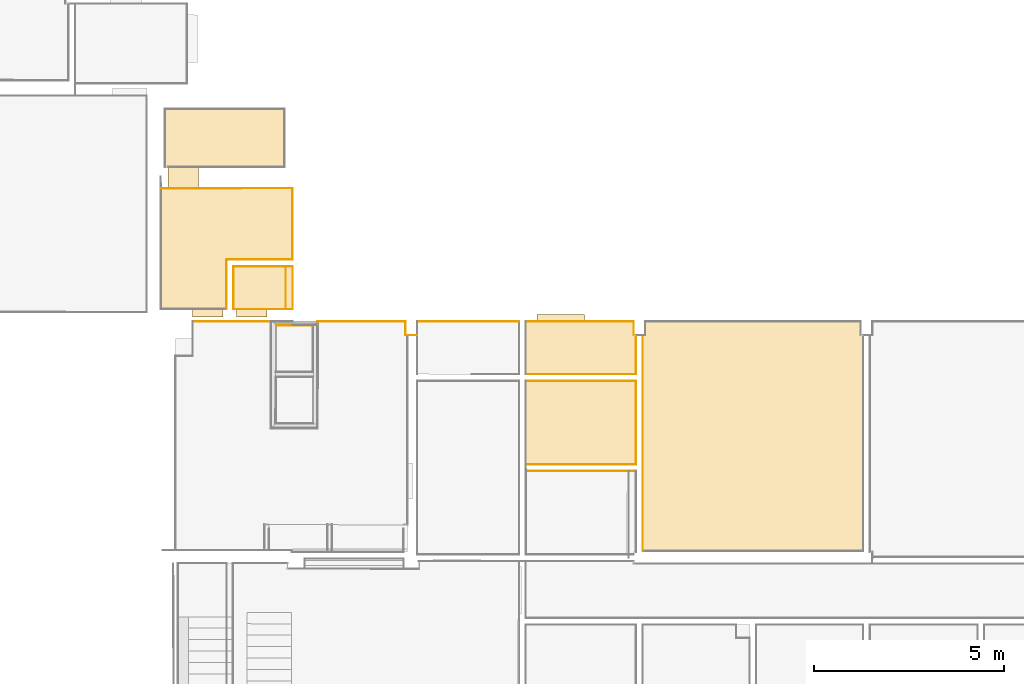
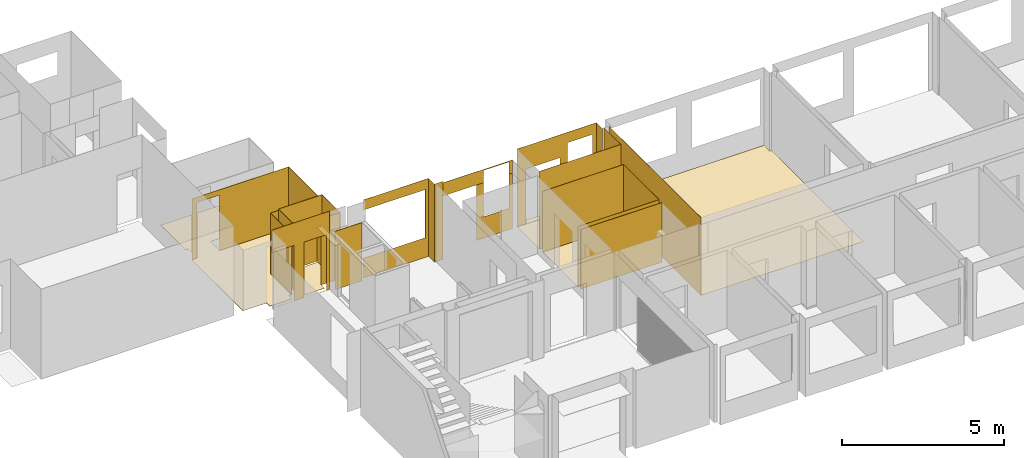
# One storey, part 10 of 33: 31 coverings, 11 openings.
"""IFC2X3 building model written with IfcOpenShell, lengths in millimetres."""

from ifc_helpers import new_model, entity, si_unit, converted_unit, derived_unit, money_unit, direction, frame, origin_with_axes, origin_2d_with_axis, place, context, subcontext, project, spatial, polyline, rectangle, outline, extrude, material, type_object, element, save


model = new_model("IFC2X3")

# Units and contexts
model_context = context("Model", 3, precision=0.01, world=origin_with_axes(), true_north=direction((0.0, 1.0)))
body_context = subcontext(model_context, "Body", "Model", "MODEL_VIEW")
ifc_project = project(units=[si_unit("LENGTHUNIT", "METRE", prefix="MILLI"), si_unit("AREAUNIT", "SQUARE_METRE"), si_unit("VOLUMEUNIT", "CUBIC_METRE"), converted_unit("PLANEANGLEUNIT", "DEGREE", entity("IfcPlaneAngleMeasure", 0.0174532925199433), si_unit("PLANEANGLEUNIT", "RADIAN"), dimensions=[0, 0, 0, 0, 0, 0, 0]), money_unit("EUR"), converted_unit("TIMEUNIT", "Year", entity("IfcTimeMeasure", 31556926.0), si_unit("TIMEUNIT", "SECOND"), dimensions=[0, 0, 1, 0, 0, 0, 0]), si_unit("MASSUNIT", "GRAM", prefix="KILO"), si_unit("THERMODYNAMICTEMPERATUREUNIT", "DEGREE_CELSIUS"), si_unit("LUMINOUSINTENSITYUNIT", "LUMEN"), si_unit("ENERGYUNIT", "JOULE", prefix="MEGA"), derived_unit("THERMALCONDUCTANCEUNIT", [(si_unit("POWERUNIT", "WATT"), 1), (si_unit("LENGTHUNIT", "METRE"), -1), (si_unit("THERMODYNAMICTEMPERATUREUNIT", "KELVIN"), -1)]), derived_unit("SPECIFICHEATCAPACITYUNIT", [(si_unit("ENERGYUNIT", "JOULE"), 1), (si_unit("MASSUNIT", "GRAM", prefix="KILO"), -1), (si_unit("THERMODYNAMICTEMPERATUREUNIT", "KELVIN"), -1)]), derived_unit("MASSDENSITYUNIT", [(si_unit("MASSUNIT", "GRAM", prefix="KILO"), 1), (si_unit("VOLUMEUNIT", "CUBIC_METRE"), -1)])], contexts=[model_context])

# Site, building, storey
site_placement = place(None, origin_with_axes())
site = spatial("IfcSite", under=ifc_project, at=site_placement, Name="Paldiski mnt 245/1, Tallinn, Harjumaa", CompositionType="COMPLEX")
building_placement = place(site_placement, origin_with_axes())
building = spatial("IfcBuilding", under=site, at=building_placement, Name="RKAS Hoone üldnimetus (kasutust iseloomustav) -> IFC Project Manager -> SOLIBRI", CompositionType="ELEMENT")
storey_placement = place(building_placement, origin_with_axes())
storey = spatial("IfcBuildingStorey", under=building, at=storey_placement, Name="Esimene korrus", CompositionType="ELEMENT", Elevation=0.0)

# Coverings
ifc_material_1 = material(Name="SA- PM-7 plaat 15x15")
covering_type_1 = type_object("IfcCoveringType", Name="SA- PM-7 plaat 15x15 8", PredefinedType="FLOORING")
covering_1_placement = place(storey_placement, frame((-46294.14747291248, 1509.828500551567, 0.0), z_axis=(0.0, 0.0, 1.0), x_axis=(1.0, 0.0, 0.0)))
element("IfcCovering", 1, at=covering_1_placement, inside=storey, type_object=covering_type_1, material=ifc_material_1, Name="PM-7", PredefinedType="FLOORING", context=body_context, shape_type="SweptSolid", body=[
    extrude(outline(polyline([(0.0, 0.0), (1734.449106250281, -1.137613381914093), (1735.688702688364, 1888.862055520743), (-745.846885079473, 1890.489566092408), (-745.4881458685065, 2437.489415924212), (1526.59701427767, 2437.000223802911), (1526.597014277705, 3983.171499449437), (-1638.852527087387, 3983.171499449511), (-1638.852527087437, 2437.000223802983), (-1545.852527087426, 2437.000223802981), (-1545.852527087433, 1889.125463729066), (-1745.852527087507, 1889.125463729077), (-1745.852136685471, -1298.684017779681), (-900.8523263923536, -1299.238181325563), (-900.9870213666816, -1504.660413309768), (-100.9871925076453, -1505.185092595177), (-100.8524975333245, -1299.762860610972), (-0.8525270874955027, -1299.828500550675), (0.0, 0.0)])), origin_with_axes(), (0.0, 0.0, 1.0), 8.0),
])
covering_2_placement = place(storey_placement, frame((-38424.335377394, -3871.024272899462, 0.0), z_axis=(0.0, 0.0, 1.0), x_axis=(1.0, 0.0, 0.0)))
element("IfcCovering", 2, at=covering_2_placement, inside=storey, type_object=covering_type_1, material=ifc_material_1, Name="PM-7", PredefinedType="FLOORING", context=body_context, shape_type="SweptSolid", body=[
    extrude(outline(polyline([(0.0, 0.0), (2904.999464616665, -1.905264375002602), (2906.442349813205, 2198.094262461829), (1.442893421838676, 2199.999526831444), (0.0, 0.0)])), origin_with_axes(), (0.0, 0.0, 1.0), 8.0),
])
covering_3_placement = place(storey_placement, frame((-38430.00009975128, -1504.999956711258, 0.0), z_axis=(0.0, 0.0, 1.0), x_axis=(1.0, 0.0, 0.0)))
element("IfcCovering", 3, at=covering_3_placement, inside=storey, type_object=covering_type_1, material=ifc_material_1, Name="PM-7", PredefinedType="FLOORING", context=body_context, shape_type="SweptSolid", body=[
    extrude(outline(polyline([(0.0, 0.0), (2905.000099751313, -4.328791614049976e-05), (2905.000099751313, 1034.999960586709), (2840.000090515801, 1034.999960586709), (2840.000090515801, 1394.999975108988), (1544.00009883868, 1394.999975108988), (1544.00009883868, 1574.99996072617), (294.0000977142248, 1574.99996072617), (294.0000977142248, 1394.999975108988), (0.0, 1394.999931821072), (0.0, 0.0)])), origin_with_axes(), (0.0, 0.0, 1.0), 8.0),
])
ifc_material_2 = material(Name="SA- Laminaat SM2(kollane laminaat)")
covering_type_2 = type_object("IfcCoveringType", Name="SA- Laminaat SM2(kollane laminaat) 12", PredefinedType="CLADDING")
covering_4_placement = place(storey_placement, frame((-44562.0667753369, 1338.80366358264, 50.0), z_axis=(0.0, 0.0, 1.0), x_axis=(-0.9999997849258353, 0.0006558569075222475, 0.0)))
element("IfcCovering", 4, at=covering_4_placement, inside=storey, type_object=covering_type_2, material=ifc_material_2, Name="SM2", PredefinedType="CLADDING", context=body_context, shape_type="SweptSolid", body=[
    extrude(outline(polyline([(0.0, 0.0), (1562.933560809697, 0.0), (1550.925687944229, 12.00000000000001), (4.976020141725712, 12.00000000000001), (0.0, 0.0)])), origin_with_axes(), (0.0, 0.0, 1.0), 2450.0),
])
covering_5_placement = place(storey_placement, frame((-46124.99999999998, 210.0000000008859, 50.0), z_axis=(0.0, 0.0, 1.0), x_axis=(0.0, 1.0, 0.0)))
element("IfcCovering", 5, at=covering_5_placement, inside=storey, type_object=covering_type_2, material=ifc_material_2, Name="SM2", PredefinedType="CLADDING", context=body_context, shape_type="SweptSolid", body=[
    extrude(outline(polyline([(0.0, -12.00000000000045), (1117.820851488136, -12.00000000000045), (1129.828724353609, 0.0), (0.0, 0.0), (0.0, -12.00000000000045)])), origin_with_axes(), (0.0, 0.0, 1.0), 2450.0),
])
covering_6_placement = place(storey_placement, frame((-44752.20520961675, 218.1267837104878, 50.0), z_axis=(0.0, 0.0, 1.0), x_axis=(0.000655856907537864, 0.9999997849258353, 0.0)))
element("IfcCovering", 6, at=covering_6_placement, inside=storey, type_object=covering_type_2, material=ifc_material_2, Name="SM2", PredefinedType="CLADDING", context=body_context, shape_type="SweptSolid", body=[
    extrude(outline(polyline([(0.0, -12.00000000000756), (1109.828724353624, -12.00000000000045), (1109.828724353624, 0.0), (0.0, 0.0), (0.0, -12.00000000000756)])), origin_with_axes(), (0.0, 0.0, 1.0), 1250.0),
])

# Covering, opening
ifc_material_3 = material(Name="SA- Värv SM4(Niiskuskindel värv)")
covering_type_3 = type_object("IfcCoveringType", Name="SA- Värv SM4(Niiskuskindel värv) 5", PredefinedType="CLADDING")
covering_7_placement = place(storey_placement, frame((-46124.99999999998, 210.0000000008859, 0.0), z_axis=(0.0, 0.0, 1.0), x_axis=(1.0, 0.0, 0.0)))
covering_7 = element("IfcCovering", 7, at=covering_7_placement, inside=storey, type_object=covering_type_3, material=ifc_material_3, Name="SM4", PredefinedType="CLADDING", context=body_context, shape_type="SweptSolid", body=[
    extrude(outline(polyline([(0.0, 0.0), (1564.449541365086, 0.0), (1564.449541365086, 5.000000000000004), (11.99999999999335, 5.000000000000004), (0.0, 0.0)])), origin_with_axes(), (0.0, 0.0, 1.0), 2500.0),
])
opening_1_placement = place(covering_7_placement, frame((46124.99999999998, -210.0000000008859, 0.0), z_axis=(0.0, 0.0, 1.0), x_axis=(1.0, 0.0, 0.0)))
element("IfcOpeningElement", 8, at=opening_1_placement, cuts=covering_7, Name="AVA", ObjectType="OPENING", context=body_context, shape_type="SweptSolid", body=[
    extrude(rectangle(XDim=791.6544747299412, YDim=2100.0, at=origin_2d_with_axis()), frame((-45640.82723736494, 205.0000000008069, 1050.0), z_axis=(0.0, -1.0, 0.0), x_axis=(1.0, 0.0, 0.0)), (0.0, 0.0, -1.0), 15.00000000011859),
])

# Coverings
covering_8_placement = place(storey_placement, frame((-44560.55045863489, 210.0000000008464, 1300.0), z_axis=(0.0, 0.0, 1.0), x_axis=(-0.001343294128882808, 0.9999990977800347, 0.0)))
element("IfcCovering", 9, at=covering_8_placement, inside=storey, type_object=covering_type_3, material=ifc_material_3, Name="SM4", PredefinedType="CLADDING", context=body_context, shape_type="SweptSolid", body=[
    extrude(outline(polyline([(0.0, 0.0), (1128.804682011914, 0.0), (1116.814653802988, 5.000000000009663), (0.006716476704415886, 5.000000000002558), (0.0, 0.0)])), origin_with_axes(), (0.0, 0.0, 1.0), 1200.0),
])
covering_9_placement = place(storey_placement, frame((-38430.00008940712, -1504.999999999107, 0.0), z_axis=(0.0, 0.0, 1.0), x_axis=(1.0, 0.0, 0.0)))
element("IfcCovering", 10, at=covering_9_placement, inside=storey, type_object=covering_type_3, material=ifc_material_3, Name="SM4", PredefinedType="CLADDING", context=body_context, shape_type="SweptSolid", body=[
    extrude(outline(polyline([(0.0, 0.0), (2905.000089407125, 0.0), (2905.000089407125, 4.999999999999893), (0.0, 4.999999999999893), (0.0, 0.0)])), origin_with_axes(), (0.0, 0.0, 1.0), 2950.0),
])
covering_10_placement = place(storey_placement, frame((-35525.0, -1504.999999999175, 0.0), z_axis=(0.0, 0.0, 1.0), x_axis=(0.0, 1.0, 0.0)))
element("IfcCovering", 11, at=covering_10_placement, inside=storey, type_object=covering_type_3, material=ifc_material_3, Name="SM4", PredefinedType="CLADDING", context=body_context, shape_type="SweptSolid", body=[
    extrude(outline(polyline([(4.999999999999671, 0.0), (1034.99999999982, 0.0), (1029.999999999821, 5.000000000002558), (4.999999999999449, 5.000000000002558), (4.999999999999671, 0.0)])), origin_with_axes(), (0.0, 0.0, 1.0), 2950.0),
])
covering_11_placement = place(storey_placement, frame((-35589.99999999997, -469.9999999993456, 0.0), z_axis=(0.0, 0.0, 1.0), x_axis=(0.0, 1.0, 0.0)))
element("IfcCovering", 12, at=covering_11_placement, inside=storey, type_object=covering_type_3, material=ifc_material_3, Name="SM4", PredefinedType="CLADDING", context=body_context, shape_type="SweptSolid", body=[
    extrude(outline(polyline([(0.0, 0.0), (359.9999999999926, 0.0), (359.9999999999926, 5.000000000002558), (-4.999999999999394, 5.000000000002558), (0.0, 0.0)])), origin_with_axes(), (0.0, 0.0, 1.0), 2950.0),
])

# Covering, openings
covering_12_placement = place(storey_placement, frame((-35589.99999999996, -109.9999999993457, 0.0), z_axis=(0.0, 0.0, 1.0), x_axis=(-1.0, -4.440148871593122e-09, 0.0)))
covering_12 = element("IfcCovering", 13, at=covering_12_placement, inside=storey, type_object=covering_type_3, material=ifc_material_3, Name="SM4", PredefinedType="CLADDING", context=body_context, shape_type="SweptSolid", body=[
    extrude(outline(polyline([(0.0, 0.0), (2840.000089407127, 0.0), (2840.000089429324, 5.000000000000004), (0.0, 5.000000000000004), (0.0, 0.0)])), origin_with_axes(), (0.0, 0.0, 1.0), 2950.0),
])
opening_2_placement = place(covering_12_placement, frame((-35590.00000048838, -109.9998419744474, 0.0), z_axis=(0.0, 0.0, 1.0), x_axis=(-1.0, 4.440148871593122e-09, 0.0)))
element("IfcOpeningElement", 14, at=opening_2_placement, cuts=covering_12, Name="AVA", ObjectType="OPENING", context=body_context, shape_type="SweptSolid", body=[
    extrude(rectangle(XDim=899.7198950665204, YDim=1750.0, at=origin_2d_with_axis()), frame((-36186.11991686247, -104.9999873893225, 1685.0), z_axis=(-4.440148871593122e-09, 1.0, 0.0), x_axis=(-1.0, -4.440148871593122e-09, 0.0)), (0.0, 0.0, -1.0), 15.00003783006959),
])
opening_3_placement = place(covering_12_placement, frame((-35590.00000048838, -109.9998419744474, 0.0), z_axis=(0.0, 0.0, 1.0), x_axis=(-1.0, 4.440148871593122e-09, 0.0)))
element("IfcOpeningElement", 15, at=opening_3_placement, cuts=covering_12, Name="AVA", ObjectType="OPENING", context=body_context, shape_type="SweptSolid", body=[
    extrude(rectangle(XDim=1220.941017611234, YDim=2076.48597095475, at=origin_2d_with_axis()), frame((-37512.44741196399, -104.9999873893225, 1046.242985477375), z_axis=(-4.440148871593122e-09, 1.0, 0.0), x_axis=(-1.0, -4.440148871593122e-09, 0.0)), (0.0, 0.0, -1.0), 15.00003783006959),
])

# Covering, opening
ifc_material_4 = material(Name="SA- Värv SM5(valge)")
covering_type_4 = type_object("IfcCoveringType", Name="SA- Värv SM5(valge) 5", PredefinedType="CLADDING")
covering_13_placement = place(storey_placement, frame((-43914.26464195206, -109.999999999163, 0.0), z_axis=(0.0, 0.0, 1.0), x_axis=(1.0, 0.0, 0.0)))
covering_13 = element("IfcCovering", 16, at=covering_13_placement, inside=storey, type_object=covering_type_4, material=ifc_material_4, Name="SM5", PredefinedType="CLADDING", context=body_context, shape_type="SweptSolid", body=[
    extrude(outline(polyline([(-0.003279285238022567, -5.000000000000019), (2324.264641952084, -5.000000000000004), (2324.264641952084, 0.0), (0.0, 0.0), (-0.003279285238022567, -5.000000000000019)])), origin_with_axes(), (0.0, 0.0, 1.0), 2950.0),
])
opening_4_placement = place(covering_13_placement, frame((43914.26464195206, 109.999999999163, 0.0), z_axis=(0.0, 0.0, 1.0), x_axis=(1.0, 0.0, 0.0)))
element("IfcOpeningElement", 17, at=opening_4_placement, cuts=covering_13, Name="AVA", ObjectType="OPENING", context=body_context, shape_type="SweptSolid", body=[
    extrude(rectangle(XDim=2200.329067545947, YDim=1818.284048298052, at=origin_2d_with_axis()), frame((-42814.10010817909, -119.9999999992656, 1657.388467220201), z_axis=(0.0, -1.0, 0.0), x_axis=(1.0, 0.0, 0.0)), (0.0, 0.0, -1.0), 15.00000000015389),
])

# Coverings
covering_14_placement = place(storey_placement, frame((-41589.99999999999, -469.9999999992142, 0.0), z_axis=(0.0, 0.0, 1.0), x_axis=(0.9999999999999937, 1.12278435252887e-07, 0.0)))
element("IfcCovering", 18, at=covering_14_placement, inside=storey, type_object=covering_type_4, material=ifc_material_4, Name="SM5", PredefinedType="CLADDING", context=body_context, shape_type="SweptSolid", body=[
    extrude(outline(polyline([(-5.000000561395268, -5.00000000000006), (49.99999943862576, -5.000000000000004), (300.0000000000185, 0.0), (0.0, 0.0), (-5.000000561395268, -5.00000000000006)])), origin_with_axes(), (0.0, 0.0, 1.0), 2950.0),
])
covering_15_placement = place(storey_placement, frame((-41589.99999999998, -109.9999999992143, 0.0), z_axis=(0.0, 0.0, 1.0), x_axis=(0.0, -1.0, 0.0)))
element("IfcCovering", 19, at=covering_15_placement, inside=storey, type_object=covering_type_4, material=ifc_material_4, Name="SM5", PredefinedType="CLADDING", context=body_context, shape_type="SweptSolid", body=[
    extrude(outline(polyline([(0.0, -5.000000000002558), (365.0000005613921, -5.000000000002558), (360.0, 0.0), (0.0, 0.0), (0.0, -5.000000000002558)])), origin_with_axes(), (0.0, 0.0, 1.0), 2950.0),
])

# Covering, openings
covering_16_placement = place(storey_placement, frame((-38600.0000894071, -109.9999999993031, 0.0), z_axis=(0.0, 0.0, 1.0), x_axis=(-1.0, 0.0, 0.0)))
covering_16 = element("IfcCovering", 20, at=covering_16_placement, inside=storey, type_object=covering_type_4, material=ifc_material_4, Name="SM5", PredefinedType="CLADDING", context=body_context, shape_type="SweptSolid", body=[
    extrude(outline(polyline([(4.999999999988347, 0.0), (2690.407229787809, 0.0), (2690.407229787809, 5.000000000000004), (4.999999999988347, 5.000000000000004), (4.999999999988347, 0.0)])), origin_with_axes(), (0.0, 0.0, 1.0), 2600.0),
])
opening_5_placement = place(covering_16_placement, frame((-38600.0000894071, -109.9999999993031, 0.0), z_axis=(0.0, 0.0, 1.0), x_axis=(-1.0, 0.0, 0.0)))
element("IfcOpeningElement", 21, at=opening_5_placement, cuts=covering_16, Name="AVA", ObjectType="OPENING", context=body_context, shape_type="SweptSolid", body=[
    extrude(rectangle(XDim=2518.365740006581, YDim=2100.0, at=origin_2d_with_axis()), frame((-39859.18295946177, -104.9999999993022, 1050.0), z_axis=(0.0, 1.0, 0.0), x_axis=(-1.0, 0.0, 0.0)), (0.0, 0.0, -1.0), 15.00000000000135),
])
opening_6_placement = place(covering_16_placement, frame((-38600.0000894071, -109.9999999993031, 0.0), z_axis=(0.0, 0.0, 1.0), x_axis=(-1.0, 0.0, 0.0)))
element("IfcOpeningElement", 22, at=opening_6_placement, cuts=covering_16, Name="AVA", ObjectType="OPENING", context=body_context, shape_type="SweptSolid", body=[
    extrude(rectangle(XDim=911.4400658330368, YDim=1750.712213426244, at=origin_2d_with_axis()), frame((-39170.25983145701, -104.9999999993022, 1685.356106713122), z_axis=(0.0, 1.0, 0.0), x_axis=(-1.0, 0.0, 0.0)), (0.0, 0.0, -1.0), 15.00000000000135),
])

covering_17_placement = place(storey_placement, frame((-47194.99999999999, -109.9999726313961, 0.0), z_axis=(0.0, 0.0, 1.0), x_axis=(1.0, -1.320451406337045e-08, 0.0)))
covering_17 = element("IfcCovering", 23, at=covering_17_placement, inside=storey, type_object=covering_type_4, material=ifc_material_4, Name="SM5", PredefinedType="CLADDING", context=body_context, shape_type="SweptSolid", body=[
    extrude(outline(polyline([(5.000000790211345, -5.000000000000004), (2054.605133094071, -5.000000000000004), (2054.605133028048, 0.0), (0.0, 0.0), (5.000000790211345, -5.000000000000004)])), origin_with_axes(), (0.0, 0.0, 1.0), 2950.0),
])
opening_7_placement = place(covering_17_placement, frame((47194.99999854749, 110.0005958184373, 0.0), z_axis=(0.0, 0.0, 1.0), x_axis=(0.9999999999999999, 1.320451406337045e-08, 0.0)))
element("IfcOpeningElement", 24, at=opening_7_placement, cuts=covering_17, Name="AVA", ObjectType="OPENING", context=body_context, shape_type="SweptSolid", body=[
    extrude(rectangle(XDim=795.0000048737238, YDim=2097.0, at=origin_2d_with_axis()), frame((-46792.50000256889, -120.0000273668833, 1051.5), z_axis=(-1.320451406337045e-08, -1.0, 0.0), x_axis=(1.0, -1.320451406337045e-08, 0.0)), (0.0, 0.0, -1.0), 15.00008210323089),
])
opening_8_placement = place(covering_17_placement, frame((47194.99999854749, 110.0005958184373, 0.0), z_axis=(0.0, 0.0, 1.0), x_axis=(0.9999999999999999, 1.320451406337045e-08, 0.0)))
element("IfcOpeningElement", 25, at=opening_8_placement, cuts=covering_17, Name="AVA", ObjectType="OPENING", context=body_context, shape_type="SweptSolid", body=[
    extrude(rectangle(XDim=800.0000000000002, YDim=2097.0, at=origin_2d_with_axis()), frame((-45645.00000013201, -120.0000273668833, 1051.5), z_axis=(-1.320451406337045e-08, -1.0, 0.0), x_axis=(1.0, -1.320451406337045e-08, 0.0)), (0.0, 0.0, -1.0), 15.00008210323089),
])

# Coverings
covering_18_placement = place(storey_placement, frame((-35354.99999999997, -469.9999999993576, 0.0), z_axis=(0.0, 0.0, 1.0), x_axis=(0.0, -1.0, 0.0)))
element("IfcCovering", 26, at=covering_18_placement, inside=storey, type_object=covering_type_4, material=ifc_material_4, Name="SM5", PredefinedType="CLADDING", context=body_context, shape_type="SweptSolid", body=[
    extrude(outline(polyline([(5.000000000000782, 0.0), (5684.000015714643, 0.0), (5684.000015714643, 5.000000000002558), (5.000000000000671, 5.000000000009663), (5.000000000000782, 0.0)])), origin_with_axes(), (0.0, 0.0, 1.0), 2950.0),
])
ifc_material_5 = material(Name="SA- PM-6 vinüül")
covering_type_5 = type_object("IfcCoveringType", Name="SA- PM-6 vinüül 3", PredefinedType="FLOORING")
covering_19_placement = place(storey_placement, frame((-46124.99999999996, 1339.828724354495, 0.0), z_axis=(0.0, 0.0, 1.0), x_axis=(1.0, 0.0, 0.0)))
element("IfcCovering", 27, at=covering_19_placement, inside=storey, type_object=covering_type_5, material=ifc_material_5, Name="PM-6", PredefinedType="FLOORING", context=body_context, shape_type="SweptSolid", body=[
    extrude(outline(polyline([(0.0, 0.0), (-0.0003364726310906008, -1129.828724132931), (79.99964632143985, -1129.881192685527), (79.86601742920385, -1333.628171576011), (879.8658453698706, -1334.152857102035), (880.0001472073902, -1129.37982339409), (1564.449541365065, -1129.828724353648), (1564.449541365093, 0.0), (0.0, 0.0)])), origin_with_axes(), (0.0, 0.0, 1.0), 3.0),
])
ifc_material_6 = material(Name="SA- PM-8 EPO lakk")
covering_type_6 = type_object("IfcCoveringType", Name="SA- PM-8 EPO lakk 1", PredefinedType="FLOORING")
covering_20_placement = place(storey_placement, frame((-29545.00000000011, -6154.000015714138, 0.0), z_axis=(0.0, 0.0, 1.0), x_axis=(1.0, 0.0, 0.0)))
element("IfcCovering", 28, at=covering_20_placement, inside=storey, type_object=covering_type_6, material=ifc_material_6, Name="PM-8", PredefinedType="FLOORING", context=body_context, shape_type="SweptSolid", body=[
    extrude(outline(polyline([(0.0, 0.0), (1.314504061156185e-10, 5684.000015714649), (-64.99999999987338, 5684.00001571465), (-64.99999999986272, 6044.00001571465), (-5744.999999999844, 6044.000015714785), (-5744.999999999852, 5684.000015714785), (-5809.999999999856, 5684.00001571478), (-5809.999999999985, 1.367794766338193e-10), (0.0, 0.0)])), origin_with_axes(), (0.0, 0.0, 1.0), 1.0),
])
ifc_material_7 = material(Name="SA- Plaat SM11(tumehall)")
covering_type_7 = type_object("IfcCoveringType", Name="SA- Plaat SM11(tumehall) 5", PredefinedType="CLADDING")
covering_21_placement = place(storey_placement, frame((-38430.00008940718, -3874.999999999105, 0.0), z_axis=(0.0, 0.0, 1.0), x_axis=(1.0, 0.0, 0.0)))
element("IfcCovering", 29, at=covering_21_placement, inside=storey, type_object=covering_type_7, material=ifc_material_7, Name="SM11", PredefinedType="CLADDING", context=body_context, shape_type="SweptSolid", body=[
    extrude(outline(polyline([(5.000000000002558, 0.0), (2905.000089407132, 0.0), (2905.000089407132, 4.999999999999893), (5.000000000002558, 4.999999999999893), (5.000000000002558, 0.0)])), origin_with_axes(), (0.0, 0.0, 1.0), 2300.0),
])
covering_22_placement = place(storey_placement, frame((-35525.00000000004, -3874.999999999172, 0.0), z_axis=(0.0, 0.0, 1.0), x_axis=(0.0, 1.0, 0.0)))
element("IfcCovering", 30, at=covering_22_placement, inside=storey, type_object=covering_type_7, material=ifc_material_7, Name="SM11", PredefinedType="CLADDING", context=body_context, shape_type="SweptSolid", body=[
    extrude(outline(polyline([(4.999999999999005, 0.0), (2199.999999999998, 0.0), (2199.999999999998, 5.000000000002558), (4.999999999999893, 5.000000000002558), (4.999999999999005, 0.0)])), origin_with_axes(), (0.0, 0.0, 1.0), 2300.0),
])
covering_23_placement = place(storey_placement, frame((-35525.0, -1674.999999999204, 0.0), z_axis=(0.0, 0.0, 1.0), x_axis=(-1.0, 0.0, 0.0)))
element("IfcCovering", 31, at=covering_23_placement, inside=storey, type_object=covering_type_7, material=ifc_material_7, Name="SM11", PredefinedType="CLADDING", context=body_context, shape_type="SweptSolid", body=[
    extrude(outline(polyline([(0.0, 0.0), (2905.000089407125, 0.0), (2905.000089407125, 4.999999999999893), (0.0, 4.999999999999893), (0.0, 0.0)])), origin_with_axes(), (0.0, 0.0, 1.0), 2300.0),
])
covering_type_8 = type_object("IfcCoveringType", Name="SA- Plaat SM11(tumehall) 11", PredefinedType="CLADDING")
covering_24_placement = place(storey_placement, frame((-44560.55045863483, 3399.828724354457, 0.0), z_axis=(0.0, 0.0, 1.0), x_axis=(0.0, -1.0, 0.0)))
element("IfcCovering", 32, at=covering_24_placement, inside=storey, type_object=covering_type_8, material=ifc_material_7, Name="SM11", PredefinedType="CLADDING", context=body_context, shape_type="SweptSolid", body=[
    extrude(outline(polyline([(0.0, -11.00000000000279), (1889.999999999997, -11.00000000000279), (1889.999999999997, 0.0), (0.0, 0.0), (0.0, -11.00000000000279)])), origin_with_axes(), (0.0, 0.0, 1.0), 2300.0),
])
covering_25_placement = place(storey_placement, frame((-46294.99999999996, 1509.828724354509, 0.0), z_axis=(0.0, 0.0, 1.0), x_axis=(0.0, -1.0, 0.0)))
element("IfcCovering", 33, at=covering_25_placement, inside=storey, type_object=covering_type_8, material=ifc_material_7, Name="SM11", PredefinedType="CLADDING", context=body_context, shape_type="SweptSolid", body=[
    extrude(outline(polyline([(0.0, -11.00000000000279), (1299.828724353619, -11.00000000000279), (1299.828724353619, 0.0), (0.0, 0.0), (0.0, -11.00000000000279)])), origin_with_axes(), (0.0, 0.0, 1.0), 2300.0),
])
covering_26_placement = place(storey_placement, frame((-44560.55045863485, 1509.82872435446, 0.0), z_axis=(0.0, 0.0, 1.0), x_axis=(-1.0, 0.0, 0.0)))
element("IfcCovering", 34, at=covering_26_placement, inside=storey, type_object=covering_type_8, material=ifc_material_7, Name="SM11", PredefinedType="CLADDING", context=body_context, shape_type="SweptSolid", body=[
    extrude(outline(polyline([(0.0, -10.9999999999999), (1734.449541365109, -10.9999999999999), (1734.449541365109, 0.0), (0.0, 0.0), (0.0, -10.9999999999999)])), origin_with_axes(), (0.0, 0.0, 1.0), 2300.0),
])

# Covering, opening
covering_27_placement = place(storey_placement, frame((-48019.48626627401, 3398.953964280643, 0.0), z_axis=(0.0, 0.0, 1.0), x_axis=(0.999999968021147, 0.0002528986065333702, 0.0)))
covering_27 = element("IfcCovering", 35, at=covering_27_placement, inside=storey, type_object=covering_type_8, material=ifc_material_7, Name="SM11", PredefinedType="CLADDING", context=body_context, shape_type="SweptSolid", body=[
    extrude(outline(polyline([(0.0, -10.99999999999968), (3458.93313636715, -10.99999999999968), (3458.93591825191, 0.0), (0.0, 0.0), (0.0, -10.99999999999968)])), origin_with_axes(), (0.0, 0.0, 1.0), 2300.0),
])
opening_9_placement = place(covering_27_placement, frame((48018.62513994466, -3411.097916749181, 0.0), z_axis=(0.0, 0.0, 1.0), x_axis=(0.999999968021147, -0.0002528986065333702, 0.0)))
element("IfcOpeningElement", 36, at=opening_9_placement, cuts=covering_27, Name="AVA", ObjectType="OPENING", context=body_context, shape_type="SweptSolid", body=[
    extrude(rectangle(XDim=800.0055167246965, YDim=2100.0, at=origin_2d_with_axis()), frame((-47439.99144385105, 3376.079204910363, 1050.0), z_axis=(0.0002528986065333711, -0.999999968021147, 0.0), x_axis=(0.999999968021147, 0.0002528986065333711, 0.0)), (0.0, 0.0, -1.0), 35.62428030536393),
])

# Coverings
ifc_material_8 = material(Name="SA- Laudis SM3(vert. laudis)")
covering_type_9 = type_object("IfcCoveringType", Name="SA- Laudis SM3(vert. laudis) 18", PredefinedType="CLADDING")
covering_28_placement = place(storey_placement, frame((-45014.32502153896, -201.7013934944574, 0.0), z_axis=(0.0, 0.0, 1.0), x_axis=(0.9999997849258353, -0.0006558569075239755, 0.0)))
element("IfcCovering", 37, at=covering_28_placement, inside=storey, type_object=covering_type_9, material=ifc_material_8, Name="SM14", PredefinedType="CLADDING", context=body_context, shape_type="SweptSolid", body=[
    extrude(outline(polyline([(18.00000000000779, -18.00000000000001), (973.9303679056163, -18.00000000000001), (991.93036790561, 0.0), (18.00000000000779, 0.0), (18.00000000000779, -18.00000000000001)])), origin_with_axes(), (0.0, 0.0, 1.0), 2200.0),
])
covering_type_10 = type_object("IfcCoveringType", Name="SA- Laminaat SM2(kollane laminaat) 10", PredefinedType="CLADDING")
covering_29_placement = place(storey_placement, frame((-35525.00000000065, -4044.999999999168, 50.0), z_axis=(0.0, 0.0, 1.0), x_axis=(-1.0, 0.0, 0.0)))
element("IfcCovering", 38, at=covering_29_placement, inside=storey, type_object=covering_type_10, material=ifc_material_2, Name="SM2", PredefinedType="CLADDING", context=body_context, shape_type="SweptSolid", body=[
    extrude(outline(polyline([(0.0, 0.0), (2905.000089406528, 0.0), (2905.000089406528, 9.999999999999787), (4.999999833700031, 9.999999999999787), (0.0, 0.0)])), origin_with_axes(), (0.0, 0.0, 1.0), 2250.0),
])
covering_type_11 = type_object("IfcCoveringType", Name="SA- Laminaat SM2(kollane laminaat) 12", PredefinedType="FLOORING")
covering_30_placement = place(storey_placement, frame((-44752.21049809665, 210.0633193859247, 1300.0), z_axis=(0.0, 0.0, 1.0), x_axis=(1.0, 0.0, 0.0)))
element("IfcCovering", 39, at=covering_30_placement, inside=storey, type_object=covering_type_11, material=ifc_material_2, Name="SM2", PredefinedType="FLOORING", context=body_context, shape_type="SweptSolid", body=[
    extrude(outline(polyline([(0.0, 0.0), (189.4033489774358, -0.1242215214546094), (190.1437227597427, 1128.740344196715), (0.7403737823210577, 1128.86456571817), (0.0, 0.0)])), origin_with_axes(), (0.0, 0.0, 1.0), 12.0),
])

# Covering, openings
ifc_material_9 = material(Name="SA- Plaat SM9(hele)")
covering_type_12 = type_object("IfcCoveringType", Name="SA- Plaat SM9(hele) 5", PredefinedType="CLADDING")
covering_31_placement = place(storey_placement, frame((-38600.0000894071, -109.9999999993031, 0.0), z_axis=(0.0, 0.0, 1.0), x_axis=(-1.0, 1.027745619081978e-08, 0.0)))
covering_31 = element("IfcCovering", 40, at=covering_31_placement, inside=storey, type_object=covering_type_12, material=ifc_material_9, Name="SM9", PredefinedType="CLADDING", context=body_context, shape_type="SweptSolid", body=[
    extrude(outline(polyline([(4.999999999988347, 0.0), (1275.999906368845, 0.0), (1275.999906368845, 5.000000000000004), (4.999999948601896, 4.99999999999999), (4.999999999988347, 0.0)])), origin_with_axes(), (0.0, 0.0, 1.0), 2100.0),
])
opening_10_placement = place(covering_31_placement, frame((-38600.00008827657, -110.000396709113, 0.0), z_axis=(0.0, 0.0, 1.0), x_axis=(-1.0, -1.027745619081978e-08, 0.0)))
element("IfcOpeningElement", 41, at=opening_10_placement, cuts=covering_31, Name="AVA", ObjectType="OPENING", context=body_context, shape_type="SweptSolid", body=[
    extrude(rectangle(XDim=1249.999999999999, YDim=2083.154337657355, at=origin_2d_with_axis()), frame((-40500.99999994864, -104.9999737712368, 1041.577168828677), z_axis=(1.027745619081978e-08, 1.0, 0.0), x_axis=(-1.0, 1.027745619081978e-08, 0.0)), (0.0, 0.0, -1.0), 15.00003934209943),
])
opening_11_placement = place(covering_31_placement, frame((-38600.00008827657, -110.000396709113, 0.0), z_axis=(0.0, 0.0, 1.0), x_axis=(-1.0, -1.027745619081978e-08, 0.0)))
element("IfcOpeningElement", 42, at=opening_11_placement, cuts=covering_31, Name="AVA", ObjectType="OPENING", context=body_context, shape_type="SweptSolid", body=[
    extrude(rectangle(XDim=911.460201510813, YDim=1760.309380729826, at=origin_2d_with_axis()), frame((-39170.26989919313, -104.9999737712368, 1690.154690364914), z_axis=(1.027745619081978e-08, 1.0, 0.0), x_axis=(-1.0, 1.027745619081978e-08, 0.0)), (0.0, 0.0, -1.0), 15.00003934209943),
])

save(model, "model.ifc")
